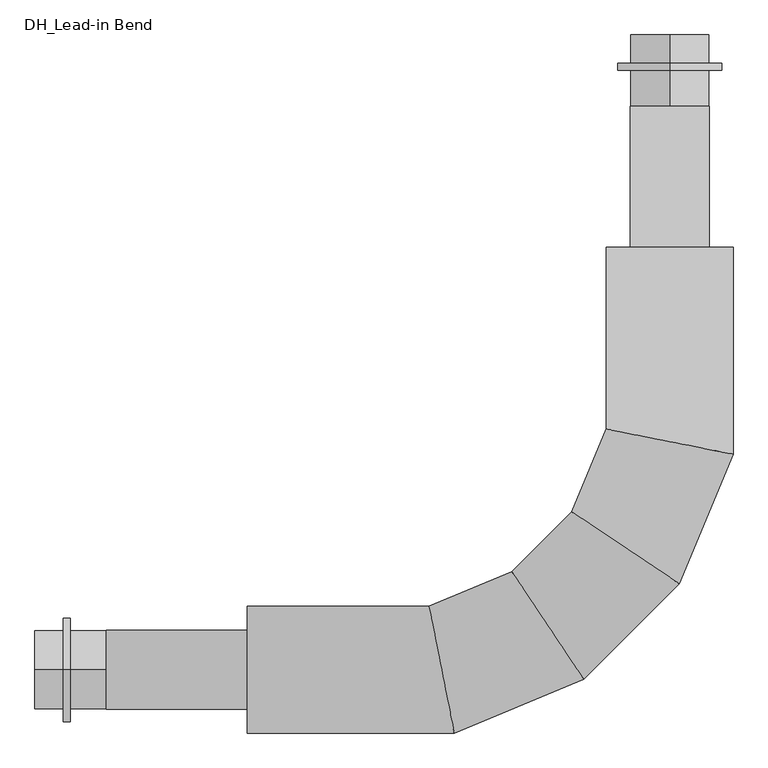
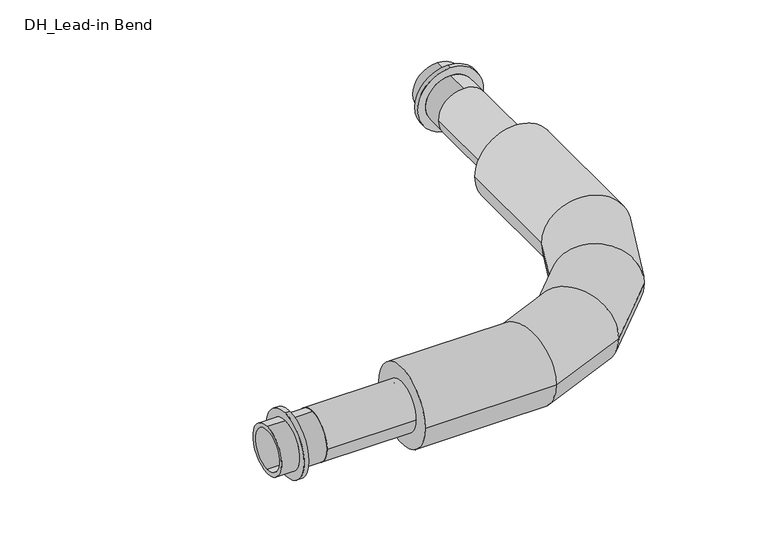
"""IFC4 building model written with IfcOpenShell, lengths in millimetres: pipe fitting geometry, DH_Lead-in Bend : RVT/RVX/RTX UNO 11 Heating Steel."""

from ifc_helpers import new_model, si_unit, point, frame, origin, origin_2d, place, context, project, spatial, polyline, circle_curve, ellipse_curve, trimmed, segment, composite_curve, outline, extrude, source, transform, mapped, element, save
from ifc_brep_helpers import plane_surface, cylinder_surface, revolved_surface, advanced_brep


def dh_lead_in_bend_729ed1e1(model_context):
    return source(origin(), model_context, "Body", "SolidModel", [
        advanced_brep(
        [(-750.0, -112.5, 0.0), (-750.0, 112.5, 0.0), (-382.6223587, -112.5, 0.0), (-427.3776413, 112.5, 0.0), (112.5, 750.0, 0.0), (-112.5, 750.0, 0.0), (-112.5, 427.3776413, 0.0), (112.5, 382.6223587, 0.0), (-152.5739094, -17.2108123, 0.0), (-280.0261713, 173.5349773, 0.0), (17.2108123, 152.5739094, 0.0), (-173.5349773, 280.0261713, 0.0)],
        [
            (0, 1, circle_curve(frame((-750.0, 0.0, 0.0), z_axis=(-1.0, 0.0, 0.0), x_axis=(0.0, 1.0, 0.0)), 112.5)),
            (1, 0, circle_curve(frame((-750.0, 0.0, 0.0), z_axis=(-1.0, 0.0, 0.0), x_axis=(0.0, 1.0, 0.0)), 112.5)),
            (0, 2),
            (2, 3, ellipse_curve(frame((-405.0, 0.0, 0.0), z_axis=(-0.9807852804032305, -0.1950903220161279, 0.0), x_axis=(-0.19509032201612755, 0.9807852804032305, 0.0)), 114.7040053, 112.5)),
            (3, 1),
            (3, 2, ellipse_curve(frame((-405.0, 0.0, 0.0), z_axis=(-0.9807852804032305, -0.1950903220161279, 0.0), x_axis=(-0.19509032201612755, 0.9807852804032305, 0.0)), 114.7040053, 112.5)),
            (4, 5, circle_curve(frame((0.0, 750.0, 0.0), z_axis=(0.0, 1.0, 0.0), x_axis=(-1.0, 0.0, 0.0)), 112.5)),
            (5, 4, circle_curve(frame((0.0, 750.0, 0.0), z_axis=(0.0, 1.0, 0.0), x_axis=(-1.0, 0.0, 0.0)), 112.5)),
            (6, 7, ellipse_curve(frame((0.0, 405.0, 0.0), z_axis=(0.1950903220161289, 0.9807852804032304, 0.0), x_axis=(0.9807852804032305, -0.19509032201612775, 0.0)), 114.7040053, 112.5)),
            (7, 4),
            (5, 6),
            (7, 6, ellipse_curve(frame((0.0, 405.0, 0.0), z_axis=(0.1950903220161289, 0.9807852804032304, 0.0), x_axis=(0.9807852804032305, -0.19509032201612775, 0.0)), 114.7040053, 112.5)),
            (2, 8),
            (8, 9, ellipse_curve(frame((-216.3000404, 78.1620825, 0.0), z_axis=(-0.8314696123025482, -0.5555702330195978, 0.0), x_axis=(-0.5555702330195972, 0.8314696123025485, 0.0)), 114.7040053, 112.5)),
            (9, 3),
            (9, 8, ellipse_curve(frame((-216.3000404, 78.1620825, 0.0), z_axis=(-0.8314696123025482, -0.5555702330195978, 0.0), x_axis=(-0.5555702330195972, 0.8314696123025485, 0.0)), 114.7040053, 112.5)),
            (8, 10),
            (10, 11, ellipse_curve(frame((-78.1620825, 216.3000404, 0.0), z_axis=(-0.555570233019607, -0.8314696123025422, 0.0), x_axis=(-0.8314696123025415, 0.5555702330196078, 0.0)), 114.7040053, 112.5)),
            (11, 9),
            (11, 10, ellipse_curve(frame((-78.1620825, 216.3000404, 0.0), z_axis=(-0.555570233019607, -0.8314696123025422, 0.0), x_axis=(-0.8314696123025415, 0.5555702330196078, 0.0)), 114.7040053, 112.5)),
            (10, 7),
            (6, 11),
        ],
        [
            plane_surface(frame((-750.0, 0.0, 0.0), z_axis=(-1.0, 0.0, 0.0), x_axis=(0.0, 0.0, 1.0))),
            cylinder_surface(frame((-750.0, 0.0, 0.0), z_axis=(-1.0, 0.0, 0.0), x_axis=(0.0, 1.0, 0.0)), 112.5),
            plane_surface(frame((0.0, 750.0, 0.0), z_axis=(0.0, 1.0, 0.0), x_axis=(0.0, 0.0, 1.0))),
            cylinder_surface(frame((0.0, 405.0, 0.0), z_axis=(0.0, -1.0, 0.0), x_axis=(-1.0, 0.0, 0.0)), 112.5),
            cylinder_surface(frame((-405.0, 0.0, 0.0), z_axis=(-0.9238795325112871, -0.382683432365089, 0.0), x_axis=(-0.382683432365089, 0.9238795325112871, 0.0)), 112.5),
            cylinder_surface(frame((-216.3000404, 78.1620825, 0.0), z_axis=(-0.7071067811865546, -0.7071067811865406, 0.0), x_axis=(-0.7071067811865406, 0.7071067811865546, 0.0)), 112.5),
            cylinder_surface(frame((-78.1620825, 216.3000404, 0.0), z_axis=(-0.38268343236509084, -0.9238795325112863, 0.0), x_axis=(-0.9238795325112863, 0.38268343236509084, 0.0)), 112.5),
        ],
        [
            (0, [[1, 2]]),
            (1, [[-1, 3, 4, 5]]),
            (1, [[-2, -5, 6, -3]]),
            (2, [[7, 8]]),
            (3, [[9, 10, -8, 11]]),
            (3, [[12, -11, -7, -10]]),
            (4, [[-4, 13, 14, 15]]),
            (4, [[-6, -15, 16, -13]]),
            (5, [[-14, 17, 18, 19]]),
            (5, [[-16, -19, 20, -17]]),
            (6, [[-18, 21, -9, 22]]),
            (6, [[-20, -22, -12, -21]]),
        ],
    ),
        extrude(outline(composite_curve([segment(trimmed(circle_curve(origin_2d(), 70.0), [point((-70.0, 0.0))], [point((70.0, 0.0))], False, "CARTESIAN"), True, "CONTINUOUS"), segment(trimmed(circle_curve(origin_2d(), 70.0), [point((70.0, 0.0))], [point((-70.0, 0.0))], False, "CARTESIAN"), True, "CONTINUOUS")], self_intersect=False), holes=[composite_curve([segment(trimmed(circle_curve(origin_2d(), 57.3), [point((-57.3, 0.0))], [point((57.3, 0.0))], True, "CARTESIAN"), True, "CONTINUOUS"), segment(trimmed(circle_curve(origin_2d(), 57.3), [point((57.3, 0.0))], [point((-57.3, 0.0))], True, "CARTESIAN"), True, "CONTINUOUS")], self_intersect=False)]), frame((-1000.0, 0.0, 0.0), z_axis=(1.0, 0.0, 0.0), x_axis=(0.0, 1.0, 0.0)), (0.0, 0.0, 1.0), 250.0),
        extrude(outline(composite_curve([segment(trimmed(circle_curve(origin_2d(), 70.0), [point((0.0, 70.0))], [point((0.0, -70.0))], False, "CARTESIAN"), True, "CONTINUOUS"), segment(trimmed(circle_curve(origin_2d(), 70.0), [point((0.0, -70.0))], [point((0.0, 70.0))], False, "CARTESIAN"), True, "CONTINUOUS")], self_intersect=False), holes=[composite_curve([segment(trimmed(circle_curve(origin_2d(), 57.3), [point((0.0, 57.3))], [point((0.0, -57.3))], True, "CARTESIAN"), True, "CONTINUOUS"), segment(trimmed(circle_curve(origin_2d(), 57.3), [point((0.0, -57.3))], [point((0.0, 57.3))], True, "CARTESIAN"), True, "CONTINUOUS")], self_intersect=False)]), frame((0.0, 750.0, 0.0), z_axis=(0.0, 1.0, 0.0), x_axis=(0.0, 0.0, 1.0)), (0.0, 0.0, 1.0), 250.0),
        advanced_brep(
        [(-1077.0, -0.2277324, 92.2993982), (-1077.0, -0.2277324, -92.3006018), (-1064.0, -0.2277324, -92.3006018), (-1064.0, -0.2277324, 92.2993982), (-1127.0, -0.2277324, 69.2993982), (-1127.0, -0.2277324, -69.3006018), (-1077.0, -0.2277324, -69.3006018), (-1077.0, -0.2277324, 69.2993982), (-1000.0, -0.2277324, 57.2993982), (-1000.0, -0.2277324, -57.3006018), (-1127.0, -0.2277324, -57.3006018), (-1127.0, -0.2277324, 57.2993982), (-1064.0, -0.2277324, 69.2993982), (-1064.0, -0.2277324, -69.3006018), (-1000.0, -0.2277324, -69.3006018), (-1000.0, -0.2277324, 69.2993982)],
        [
            (0, 1, circle_curve(frame((-1077.0, -0.2277324, -0.0006018), z_axis=(1.0, 0.0, 0.0), x_axis=(0.0, 0.0, -1.0)), 92.3)),
            (1, 2),
            (2, 3, circle_curve(frame((-1064.0, -0.2277324, -0.0006018), z_axis=(-1.0, 0.0, 0.0), x_axis=(0.0, 0.0, -1.0)), 92.3)),
            (3, 0),
            (4, 5, circle_curve(frame((-1127.0, -0.2277324, -0.0006018), z_axis=(1.0, 0.0, 0.0), x_axis=(0.0, 0.0, -1.0)), 69.3)),
            (5, 6),
            (6, 7, circle_curve(frame((-1077.0, -0.2277324, -0.0006018), z_axis=(-1.0, 0.0, 0.0), x_axis=(0.0, 0.0, -1.0)), 69.3)),
            (7, 4),
            (8, 9, circle_curve(frame((-1000.0, -0.2277324, -0.0006018), z_axis=(1.0, 0.0, 0.0), x_axis=(0.0, 0.0, -1.0)), 57.3)),
            (9, 10),
            (10, 11, circle_curve(frame((-1127.0, -0.2277324, -0.0006018), z_axis=(-1.0, 0.0, 0.0), x_axis=(0.0, 0.0, -1.0)), 57.3)),
            (11, 8),
            (2, 3, circle_curve(frame((-1064.0, -0.2277324, -0.0006018), z_axis=(1.0, 0.0, 0.0), x_axis=(0.0, 0.0, 1.0)), 92.3)),
            (12, 13, circle_curve(frame((-1064.0, -0.2277324, -0.0006018), z_axis=(-1.0, 0.0, 0.0), x_axis=(0.0, 0.0, 1.0)), 69.3)),
            (13, 12, circle_curve(frame((-1064.0, -0.2277324, -0.0006018), z_axis=(-1.0, 0.0, 0.0), x_axis=(0.0, 0.0, -1.0)), 69.3)),
            (1, 0, circle_curve(frame((-1077.0, -0.2277324, -0.0006018), z_axis=(1.0, 0.0, 0.0), x_axis=(0.0, 0.0, 1.0)), 92.3)),
            (6, 7, circle_curve(frame((-1077.0, -0.2277324, -0.0006018), z_axis=(1.0, 0.0, 0.0), x_axis=(0.0, 0.0, 1.0)), 69.3)),
            (5, 4, circle_curve(frame((-1127.0, -0.2277324, -0.0006018), z_axis=(1.0, 0.0, 0.0), x_axis=(0.0, 0.0, 1.0)), 69.3)),
            (10, 11, circle_curve(frame((-1127.0, -0.2277324, -0.0006018), z_axis=(1.0, 0.0, 0.0), x_axis=(0.0, 0.0, 1.0)), 57.3)),
            (9, 8, circle_curve(frame((-1000.0, -0.2277324, -0.0006018), z_axis=(1.0, 0.0, 0.0), x_axis=(0.0, 0.0, 1.0)), 57.3)),
            (13, 14),
            (14, 15, circle_curve(frame((-1000.0, -0.2277324, -0.0006018), z_axis=(-1.0, 0.0, 0.0), x_axis=(0.0, 0.0, -1.0)), 69.3)),
            (15, 12),
            (14, 15, circle_curve(frame((-1000.0, -0.2277324, -0.0006018), z_axis=(1.0, 0.0, 0.0), x_axis=(0.0, 0.0, 1.0)), 69.3)),
        ],
        [
            cylinder_surface(frame((-1000.0, -0.2277324, -0.0006018), z_axis=(-1.0, 0.0, 0.0), x_axis=(0.0, 0.0, -1.0)), 92.3),
            cylinder_surface(frame((-1000.0, -0.2277324, -0.0006018), z_axis=(-1.0, 0.0, 0.0), x_axis=(0.0, 0.0, -1.0)), 69.3),
            revolved_surface(polyline([(-1127.0, -0.2277324, -57.300601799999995), (-1000.0, -0.2277324, -57.300601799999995)]), (-1000.0, -0.2277324, -0.0006018), (-1.0, 0.0, 0.0)),
            plane_surface(frame((-1064.0, -0.2277324, -0.0006018), z_axis=(1.0, 0.0, 0.0), x_axis=(0.0, 0.0, 1.0))),
            cylinder_surface(frame((-1000.0, -0.2277324, -0.0006018), z_axis=(-1.0, 0.0, 0.0), x_axis=(0.0, 0.0, 1.0)), 92.3),
            plane_surface(frame((-1077.0, -0.2277324, -0.0006018), z_axis=(-1.0, 0.0, 0.0), x_axis=(0.0, 0.0, 1.0))),
            cylinder_surface(frame((-1000.0, -0.2277324, -0.0006018), z_axis=(-1.0, 0.0, 0.0), x_axis=(0.0, 0.0, 1.0)), 69.3),
            plane_surface(frame((-1127.0, -0.2277324, -0.0006018), z_axis=(-1.0, 0.0, 0.0), x_axis=(0.0, 0.0, 1.0))),
            revolved_surface(polyline([(-1127.0, -0.2277324, 57.2993982), (-1000.0, -0.2277324, 57.2993982)]), (-1000.0, -0.2277324, -0.0006018), (-1.0, 0.0, 0.0)),
            plane_surface(frame((-1000.0, -0.2277324, -0.0006018), z_axis=(1.0, 0.0, 0.0), x_axis=(0.0, 0.0, 1.0))),
        ],
        [
            (0, [[1, 2, 3, 4]]),
            (1, [[5, 6, 7, 8]]),
            (2, [[9, 10, 11, 12]]),
            (3, [[13, -3], [14, 15]]),
            (4, [[16, -4, -13, -2]]),
            (5, [[-16, -1], [17, -7]]),
            (6, [[18, -8, -17, -6]]),
            (7, [[-18, -5], [19, -11]]),
            (8, [[20, -12, -19, -10]]),
            (1, [[-15, 21, 22, 23]]),
            (9, [[24, -22], [-20, -9]]),
            (6, [[-14, -23, -24, -21]]),
        ],
    ),
        advanced_brep(
        [(0.2277328, 1077.0, 92.2993982), (0.2277328, 1077.0, -92.3006018), (0.2277328, 1064.0, -92.3006018), (0.2277328, 1064.0, 92.2993982), (0.2277328, 1127.0, 69.2993982), (0.2277328, 1127.0, -69.3006018), (0.2277328, 1077.0, -69.3006018), (0.2277328, 1077.0, 69.2993982), (0.2277328, 1000.0, 57.2993982), (0.2277328, 1000.0, -57.3006018), (0.2277328, 1127.0, -57.3006018), (0.2277328, 1127.0, 57.2993982), (0.2277328, 1064.0, 69.2993982), (0.2277328, 1064.0, -69.3006018), (0.2277328, 1000.0, -69.3006018), (0.2277328, 1000.0, 69.2993982)],
        [
            (0, 1, circle_curve(frame((0.2277328, 1077.0, -0.0006018), z_axis=(0.0, -1.0, 0.0), x_axis=(0.0, 0.0, -1.0)), 92.3)),
            (1, 2),
            (2, 3, circle_curve(frame((0.2277328, 1064.0, -0.0006018), z_axis=(0.0, 1.0, 0.0), x_axis=(0.0, 0.0, -1.0)), 92.3)),
            (3, 0),
            (4, 5, circle_curve(frame((0.2277328, 1127.0, -0.0006018), z_axis=(0.0, -1.0, 0.0), x_axis=(0.0, 0.0, -1.0)), 69.3)),
            (5, 6),
            (6, 7, circle_curve(frame((0.2277328, 1077.0, -0.0006018), z_axis=(0.0, 1.0, 0.0), x_axis=(0.0, 0.0, -1.0)), 69.3)),
            (7, 4),
            (8, 9, circle_curve(frame((0.2277328, 1000.0, -0.0006018), z_axis=(0.0, -1.0, 0.0), x_axis=(0.0, 0.0, -1.0)), 57.3)),
            (9, 10),
            (10, 11, circle_curve(frame((0.2277328, 1127.0, -0.0006018), z_axis=(0.0, 1.0, 0.0), x_axis=(0.0, 0.0, -1.0)), 57.3)),
            (11, 8),
            (2, 3, circle_curve(frame((0.2277328, 1064.0, -0.0006018), z_axis=(0.0, -1.0, 0.0), x_axis=(0.0, 0.0, 1.0)), 92.3)),
            (12, 13, circle_curve(frame((0.2277328, 1064.0, -0.0006018), z_axis=(0.0, 1.0, 0.0), x_axis=(0.0, 0.0, 1.0)), 69.3)),
            (13, 12, circle_curve(frame((0.2277328, 1064.0, -0.0006018), z_axis=(0.0, 1.0, 0.0), x_axis=(0.0, 0.0, -1.0)), 69.3)),
            (1, 0, circle_curve(frame((0.2277328, 1077.0, -0.0006018), z_axis=(0.0, -1.0, 0.0), x_axis=(0.0, 0.0, 1.0)), 92.3)),
            (6, 7, circle_curve(frame((0.2277328, 1077.0, -0.0006018), z_axis=(0.0, -1.0, 0.0), x_axis=(0.0, 0.0, 1.0)), 69.3)),
            (5, 4, circle_curve(frame((0.2277328, 1127.0, -0.0006018), z_axis=(0.0, -1.0, 0.0), x_axis=(0.0, 0.0, 1.0)), 69.3)),
            (10, 11, circle_curve(frame((0.2277328, 1127.0, -0.0006018), z_axis=(0.0, -1.0, 0.0), x_axis=(0.0, 0.0, 1.0)), 57.3)),
            (9, 8, circle_curve(frame((0.2277328, 1000.0, -0.0006018), z_axis=(0.0, -1.0, 0.0), x_axis=(0.0, 0.0, 1.0)), 57.3)),
            (13, 14),
            (14, 15, circle_curve(frame((0.2277328, 1000.0, -0.0006018), z_axis=(0.0, 1.0, 0.0), x_axis=(0.0, 0.0, -1.0)), 69.3)),
            (15, 12),
            (14, 15, circle_curve(frame((0.2277328, 1000.0, -0.0006018), z_axis=(0.0, -1.0, 0.0), x_axis=(0.0, 0.0, 1.0)), 69.3)),
        ],
        [
            cylinder_surface(frame((0.2277328, 1000.0, -0.0006018), z_axis=(0.0, 1.0, 0.0), x_axis=(0.0, 0.0, -1.0)), 92.3),
            cylinder_surface(frame((0.2277328, 1000.0, -0.0006018), z_axis=(0.0, 1.0, 0.0), x_axis=(0.0, 0.0, -1.0)), 69.3),
            revolved_surface(polyline([(0.2277328, 1127.0, -57.300601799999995), (0.2277328, 1000.0, -57.300601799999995)]), (0.2277328, 1000.0, -0.0006018), (0.0, 1.0, 0.0)),
            plane_surface(frame((0.2277328, 1064.0, -0.0006018), z_axis=(0.0, -1.0, 0.0), x_axis=(0.0, 0.0, 1.0))),
            cylinder_surface(frame((0.2277328, 1000.0, -0.0006018), z_axis=(0.0, 1.0, 0.0), x_axis=(0.0, 0.0, 1.0)), 92.3),
            plane_surface(frame((0.2277328, 1077.0, -0.0006018), z_axis=(0.0, 1.0, 0.0), x_axis=(0.0, 0.0, 1.0))),
            cylinder_surface(frame((0.2277328, 1000.0, -0.0006018), z_axis=(0.0, 1.0, 0.0), x_axis=(0.0, 0.0, 1.0)), 69.3),
            plane_surface(frame((0.2277328, 1127.0, -0.0006018), z_axis=(0.0, 1.0, 0.0), x_axis=(0.0, 0.0, 1.0))),
            revolved_surface(polyline([(0.2277328, 1127.0, 57.2993982), (0.2277328, 1000.0, 57.2993982)]), (0.2277328, 1000.0, -0.0006018), (0.0, 1.0, 0.0)),
            plane_surface(frame((0.2277328, 1000.0, -0.0006018), z_axis=(0.0, -1.0, 0.0), x_axis=(0.0, 0.0, 1.0))),
        ],
        [
            (0, [[1, 2, 3, 4]]),
            (1, [[5, 6, 7, 8]]),
            (2, [[9, 10, 11, 12]]),
            (3, [[13, -3], [14, 15]]),
            (4, [[16, -4, -13, -2]]),
            (5, [[-16, -1], [17, -7]]),
            (6, [[18, -8, -17, -6]]),
            (7, [[-18, -5], [19, -11]]),
            (8, [[20, -12, -19, -10]]),
            (1, [[-15, 21, 22, 23]]),
            (9, [[24, -22], [-20, -9]]),
            (6, [[-14, -23, -24, -21]]),
        ],
    ),
    ])


if __name__ == "__main__":
    model = new_model("IFC4")
    model_context = context("Model", 3, world=origin())
    ifc_project = project(units=[si_unit("LENGTHUNIT", "METRE", prefix="MILLI")], contexts=[model_context])
    site = spatial("IfcSite", under=ifc_project)
    building = spatial("IfcBuilding", under=site)
    placement = place(None, origin())
    dh_lead_in_bend_shape = dh_lead_in_bend_729ed1e1(model_context)
    element("IfcPipeFitting", 1, ObjectType="DH_Lead-in Bend : RVT/RVX/RTX UNO 11 Heating Steel", at=placement, inside=building, context=model_context, shape_type="MappedRepresentation", body=[
        mapped(dh_lead_in_bend_shape, transform((0.0, 0.0, 0.0), x_axis=(1.0, 0.0, 0.0), y_axis=(0.0, 1.0, 0.0), z_axis=(0.0, 0.0, 1.0))),
    ])
    save(model, "model.ifc")
